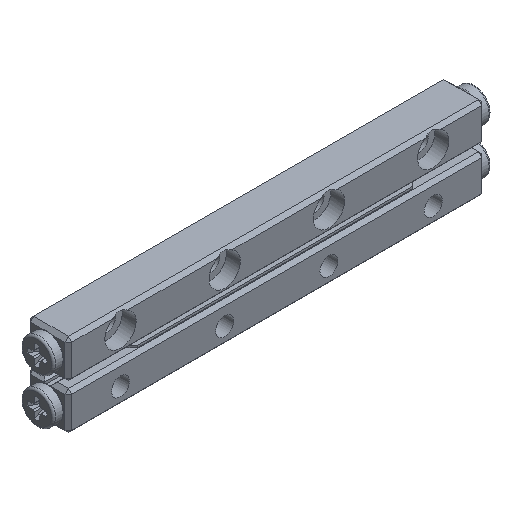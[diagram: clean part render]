
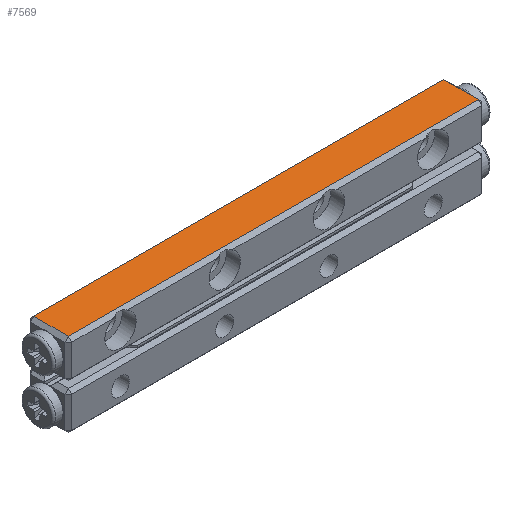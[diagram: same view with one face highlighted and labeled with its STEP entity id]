
A CAD part, isometric view. The second image highlights one B-rep face of the part: STEP entity #7569.
In plain terms, the highlighted planar face has unit normal (0, 0, 1).
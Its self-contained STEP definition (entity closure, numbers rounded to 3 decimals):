
#22 = VERTEX_POINT ( 'NONE', #10747 ) ;
#288 = CARTESIAN_POINT ( 'NONE',  ( 29.501, 2.501, 12. ) ) ;
#1457 = VERTEX_POINT ( 'NONE', #4404 ) ;
#1647 = VECTOR ( 'NONE', #2439, 1000. ) ;
#2439 = DIRECTION ( 'NONE',  ( 1., 0., 0. ) ) ;
#2507 = CARTESIAN_POINT ( 'NONE',  ( 29.501, -2.501, 12. ) ) ;
#2782 = ORIENTED_EDGE ( 'NONE', *, *, #3473, .T. ) ;
#2979 = ORIENTED_EDGE ( 'NONE', *, *, #7596, .T. ) ;
#3200 = DIRECTION ( 'NONE',  ( 0., -1., 0. ) ) ;
#3358 = EDGE_LOOP ( 'NONE', ( #2979, #11499, #2782, #3925 ) ) ;
#3367 = CARTESIAN_POINT ( 'NONE',  ( 30., -2.501, 12. ) ) ;
#3473 = EDGE_CURVE ( 'NONE', #1457, #22, #9498, .T. ) ;
#3925 = ORIENTED_EDGE ( 'NONE', *, *, #11065, .T. ) ;
#4404 = CARTESIAN_POINT ( 'NONE',  ( -29.501, 2.501, 12. ) ) ;
#4452 = CARTESIAN_POINT ( 'NONE',  ( 30., 2.501, 12. ) ) ;
#4511 = VECTOR ( 'NONE', #6543, 1000. ) ;
#4721 = DIRECTION ( 'NONE',  ( 0., 1., 0. ) ) ;
#5168 = DIRECTION ( 'NONE',  ( -1., 0., 0. ) ) ;
#5598 = LINE ( 'NONE', #9189, #4511 ) ;
#5761 = EDGE_CURVE ( 'NONE', #7608, #1457, #9808, .T. ) ;
#6477 = DIRECTION ( 'NONE',  ( 0., 0., -1. ) ) ;
#6543 = DIRECTION ( 'NONE',  ( 0., 1., 0. ) ) ;
#6917 = LINE ( 'NONE', #3367, #1647 ) ;
#7414 = FACE_OUTER_BOUND ( 'NONE', #3358, .T. ) ;
#7569 = ADVANCED_FACE ( 'NONE', ( #7414 ), #8255, .F. ) ;
#7596 = EDGE_CURVE ( 'NONE', #9700, #7608, #5598, .T. ) ;
#7608 = VERTEX_POINT ( 'NONE', #288 ) ;
#7856 = VECTOR ( 'NONE', #5168, 1000. ) ;
#8255 = PLANE ( 'NONE',  #10337 ) ;
#8843 = VECTOR ( 'NONE', #3200, 1000. ) ;
#9072 = CARTESIAN_POINT ( 'NONE',  ( 30., -3., 12. ) ) ;
#9189 = CARTESIAN_POINT ( 'NONE',  ( 29.501, -3., 12. ) ) ;
#9316 = CARTESIAN_POINT ( 'NONE',  ( -29.501, -3., 12. ) ) ;
#9498 = LINE ( 'NONE', #9316, #8843 ) ;
#9700 = VERTEX_POINT ( 'NONE', #2507 ) ;
#9808 = LINE ( 'NONE', #4452, #7856 ) ;
#10337 = AXIS2_PLACEMENT_3D ( 'NONE', #9072, #6477, #4721 ) ;
#10747 = CARTESIAN_POINT ( 'NONE',  ( -29.501, -2.501, 12. ) ) ;
#11065 = EDGE_CURVE ( 'NONE', #22, #9700, #6917, .T. ) ;
#11499 = ORIENTED_EDGE ( 'NONE', *, *, #5761, .T. ) ;
